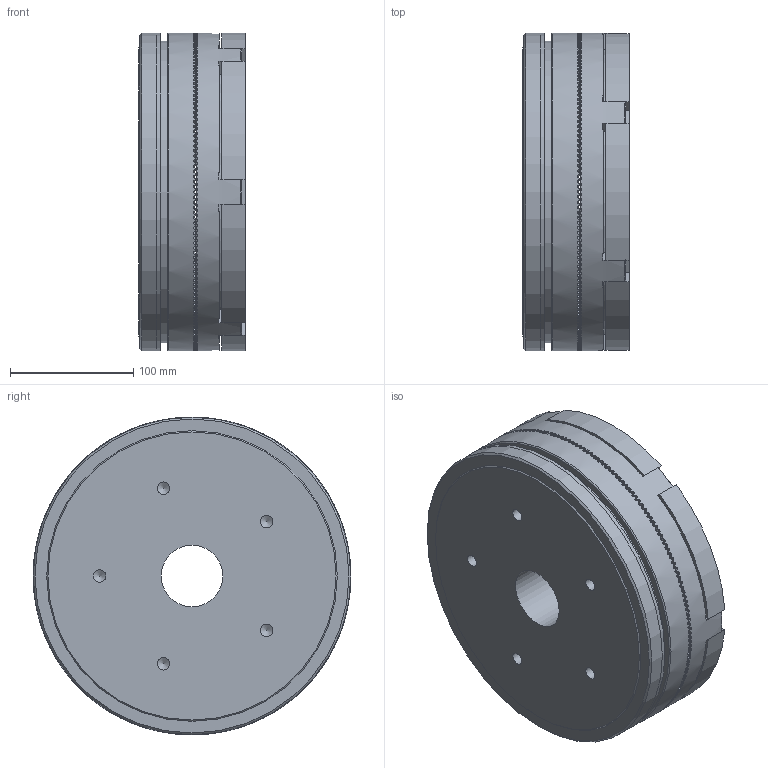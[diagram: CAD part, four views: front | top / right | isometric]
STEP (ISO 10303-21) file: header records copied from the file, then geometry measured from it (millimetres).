
FILE_DESCRIPTION(/* description */ (''),/* implementation_level */ '2;1');
FILE_NAME(/* name */ '\\Srv-tecnico\DATI\UFFICIO TECNICO\ARCHIVIO INVENTOR\DISEGNI\UFFICIO TECNICO\07_Innesti_Elettromagnetici_a_Dentini\07_01 EC_Z\07_01_260_01 EC260_Z\08_01_260_01 EC260_Z@STEP.stp',/* time_stamp */ '2015-04-28T16:10:17+02:00',/* author */ ('stefano'),/* organization */ (''),/* preprocessor_version */ 'ST-DEVELOPER v15.6',/* originating_system */ 'Autodesk Inventor 2015',/* authorisation */ '');
FILE_SCHEMA (('AUTOMOTIVE_DESIGN { 1 0 10303 214 3 1 1 }'));
Products named in the file (1): 08_01_260_01 EC260_Z_Substitute_1
Bounding box: 86.6 x 258 x 258 mm (x, y, z)
Volume: 3693014.7 mm3; surface area: 330841.8 mm2
Topology: 2 solids, 2 shells, 1849 faces, 5372 edges, 3554 vertices
Faces by surface type: plane 1735, cylinder 86, cone 27, torus 1
Full cylindrical faces by diameter (mm): 4.917 x6, 7.9 x6, 8.5 x6, 10.106 x5, 12 x6, 13 x6, 50 x1, 130 x2, 133 x1, 173 x1, 205 x1, 232 x1, 240 x1, 242 x2, 245 x1, 258 x4
Entity records: 62538 total; most frequent: DIRECTION 12206, CARTESIAN_POINT 10956, ORIENTED_EDGE 10570, EDGE_CURVE 5285, AXIS2_PLACEMENT_3D 5131, VERTEX_POINT 3533, ELLIPSE 2304, EDGE_LOOP 1958
